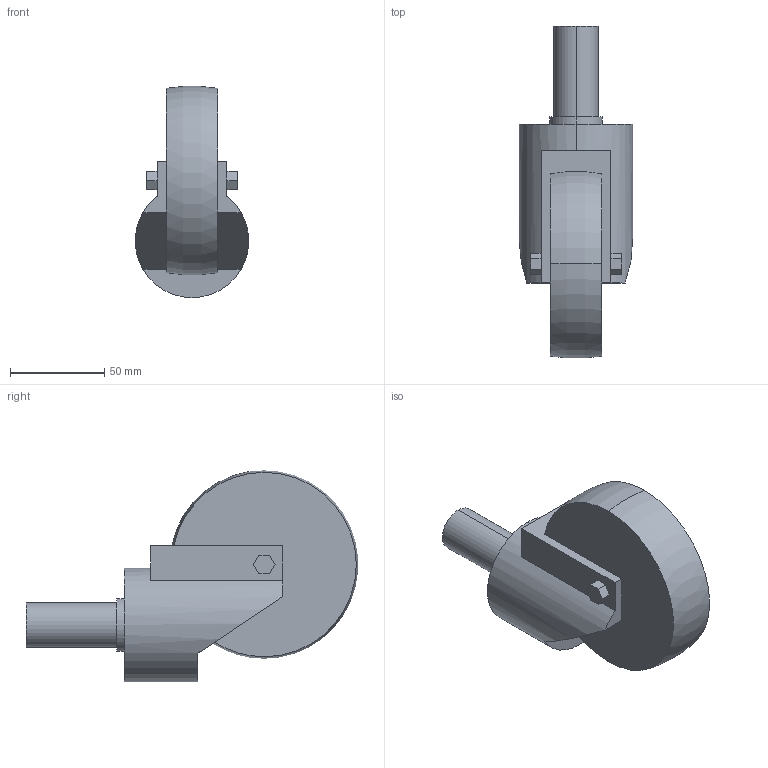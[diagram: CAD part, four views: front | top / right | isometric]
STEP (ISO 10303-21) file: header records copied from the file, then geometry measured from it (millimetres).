
FILE_DESCRIPTION (( 'STEP AP214' ), '1' );
FILE_NAME ('SGR100 CTP.step', '2024-02-15T04:35:27', ( 'catia' ), ( 'HP Inc.' ), 'SwSTEP 2.0', 'SolidWorks 2021', '' );
FILE_SCHEMA (( 'AUTOMOTIVE_DESIGN' ));
Length unit declared in the file: millimetre
Products named in the file (1): SGR100 CTP
Bounding box: 60 x 175.69 x 111.86 mm (x, y, z)
Volume: 379904.6 mm3; surface area: 40021 mm2
Topology: 1 solids, 1 shells, 39 faces, 99 edges, 66 vertices
Faces by surface type: plane 29, cylinder 7, torus 3
Entity records: 1225 total; most frequent: CARTESIAN_POINT 227, DIRECTION 201, ORIENTED_EDGE 198, EDGE_CURVE 99, LINE 69, VECTOR 69, VERTEX_POINT 66, AXIS2_PLACEMENT_3D 66
